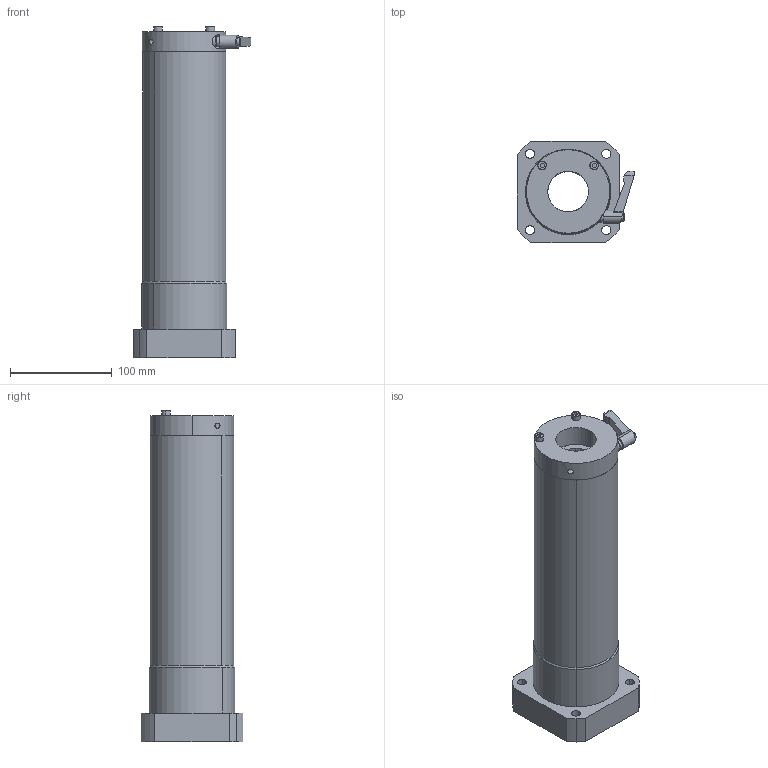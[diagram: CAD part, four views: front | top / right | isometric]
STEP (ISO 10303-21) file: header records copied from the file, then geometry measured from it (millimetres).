
FILE_DESCRIPTION (( 'STEP AP214' ), '1' );
FILE_NAME ('LFWL40BMF-CS.STEP', '2023-06-27T04:30:31', ( '' ), ( '' ), 'SwSTEP 2.0', 'SolidWorks 2019', '' );
FILE_SCHEMA (( 'AUTOMOTIVE_DESIGN' ));
Length unit declared in the file: millimetre
Products named in the file (3): LFWL40BMF-CS; “ÁSCK4020SS-S5.5; LFWL40BMF
Assembly tree (2 placements, depth 2):
  LFWL40BMF-CS
    LFWL40BMF
    “ÁSCK4020SS-S5.5
Bounding box: 115.4 x 100 x 325 mm (x, y, z)
Volume: 1404169.5 mm3; surface area: 174455 mm2
Topology: 4 solids, 10 shells, 210 faces, 510 edges, 324 vertices
Faces by surface type: cylinder 85, plane 61, bspline 43, cone 13, torus 8
Entity records: 9145 total; most frequent: CARTESIAN_POINT 1979, DIRECTION 1083, ORIENTED_EDGE 1020, EDGE_CURVE 510, AXIS2_PLACEMENT_3D 446, VERTEX_POINT 324, CIRCLE 274, EDGE_LOOP 256
